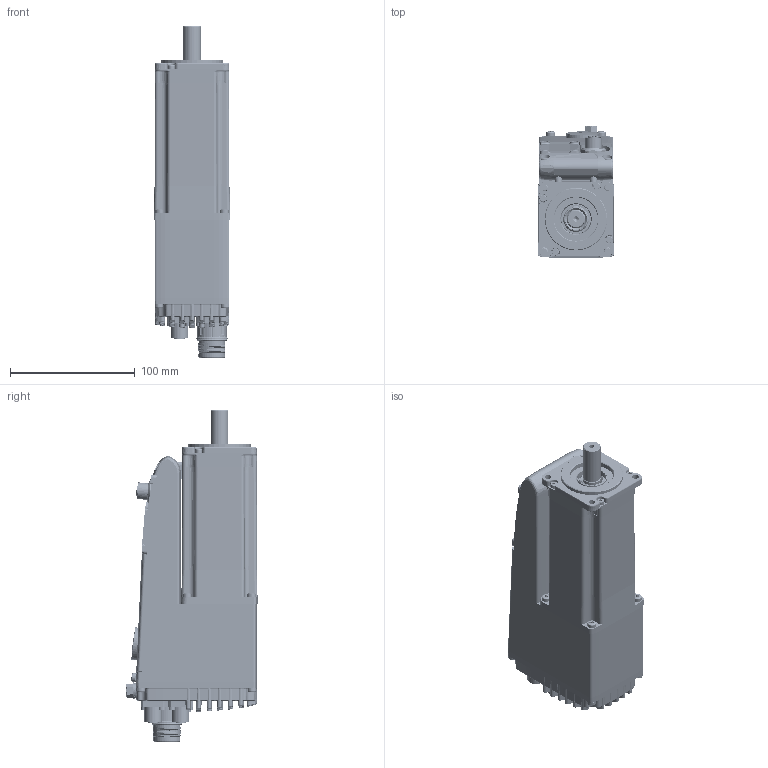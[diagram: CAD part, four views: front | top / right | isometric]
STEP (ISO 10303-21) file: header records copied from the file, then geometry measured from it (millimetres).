
FILE_DESCRIPTION(/* description */ ('Unknown'),/* implementation_level */ '2;1');
FILE_NAME(/* name */ 'DUET60 1,3 A1 0 E 3 (Q0C004)',/* time_stamp */ '2020-11-04T15:11:34+01:00',/* author */ ('Unknown'),/* organization */ ('Unknown'),/* preprocessor_version */ 'ST-DEVELOPER v16.7',/* originating_system */ 'DEX',/* authorisation */ $);
FILE_SCHEMA (('AUTOMOTIVE_DESIGN {1 0 10303 214 3 1 1}'));
Products named in the file (46): DUET60 1,3 A1 0 E 3 (Q0C004); 003251021030; 005123000690; 005123000690_0; 005123000690_1; 005123000690_2; 005123000690_3; 005123000690_4; 005123000690_5; 005123000690_6; 005755000060; 005751000100; 005123000100; 005123000100_0; 005123000100_1; 005123000100_2; 005123000100_3; 005123000100_4; 005123000100_5; 005911000198; 005008000740-oa1; 005008000744-oa2; MD031601.1.0; 005911000495; 005119001310; 005119001310_0; N01A67; 003120003044; 052400000001; LC431503.0.0; J_4302729; J_7601000000; V_VTCTX3X10(8.8); J_7084943121; MD031604.0.0; V_RP6; MD031607.0.0; MD031608.0.0; V_VTCTX40X12A; V_VTCTXK30X8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
Assembly tree (77 placements, depth 4):
  DUET60 1,3 A1 0 E 3 (Q0C004)
    003251021030
    005123000690
    005123000690_0
    005123000690_1
    005123000690_2
    005123000690_3
    005123000690_4
    005123000690_5
    005123000690_6
    005755000060
    005751000100
    005123000100
    005123000100_0
    005123000100_1
    005123000100_2
    005123000100_3
    005123000100_4
    005123000100_5
    005911000198  x4
    005008000740-oa1
    005008000744-oa2
    MD031601.1.0
    005911000495  x4
    005119001310
    005119001310_0
    N01A67
    003120003044
    052400000001
      LC431503.0.0
        J_4302729  x2
        J_7601000000
        V_VTCTX3X10(8.8)  x11
        J_7084943121
        MD031604.0.0
        V_RP6
      MD031607.0.0
      MD031608.0.0
      V_VTCTX40X12A  x12
      V_VTCTXK30X8  x5
      MD031609.0.0
      V_V027400610
      169692
      MD081003.2.0
      MD141520.0.0
      CONEC-43-01063
Bounding box: 61.32 x 105.22 x 265.8 mm (x, y, z)
Volume: 400155 mm3; surface area: 255694.5 mm2
Topology: 76 solids, 77 shells, 4303 faces, 10774 edges, 6824 vertices
Faces by surface type: plane 1805, cylinder 1109, bspline 564, cone 384, torus 362, sphere 79
Full cylindrical faces by diameter (mm): 0.8 x8, 0.9 x8, 1.1 x8, 1.2 x4, 1.3 x8, 1.4 x8, 1.5 x8, 1.7 x2, 2.2 x5, 2.4 x15, 2.459 x11, 2.5 x17, 3 x24, 3.2 x24, 3.242 x1, 3.3 x1, 3.4 x8, 3.5 x14, 4 x14, 4.2 x3, 4.5 x6, 5 x7, 5.5 x20, 5.6 x5, 6 x22, 6.4 x1, 7 x12, 8 x2, 9.99 x1, 10 x2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
Entity records: 147278 total; most frequent: CARTESIAN_POINT 46531, ORIENTED_EDGE 16858, DIRECTION 16362, EDGE_CURVE 8429, AXIS2_PLACEMENT_3D 6380, VERTEX_POINT 5656, FACE_BOUND 4637, EDGE_LOOP 4583
